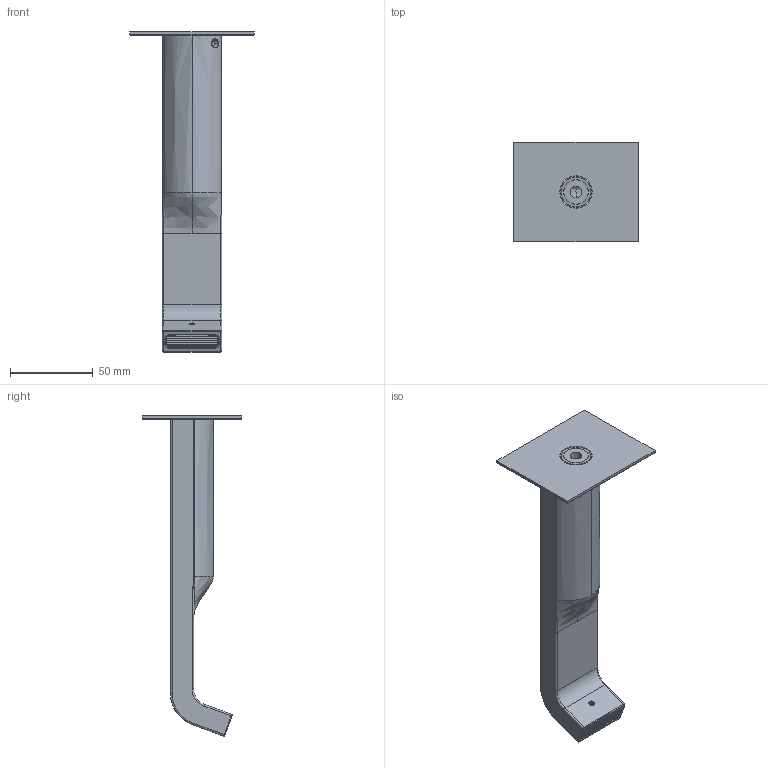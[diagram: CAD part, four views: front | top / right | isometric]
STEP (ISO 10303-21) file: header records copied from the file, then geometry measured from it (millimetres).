
FILE_DESCRIPTION((''),'2;1');
FILE_NAME('83897_SW0001','2026-01-30T14:35:10',('carloff'),(''),'CREO PARAMETRIC BY PTC INC, 2022014','CREO PARAMETRIC BY PTC INC, 2022014','');
FILE_SCHEMA(('CONFIG_CONTROL_DESIGN'));
Length unit declared in the file: millimetre
Products named in the file (1): 83897_SW0001
Bounding box: 75 x 60 x 193.44 mm (x, y, z)
Volume: 95217.5 mm3; surface area: 63042 mm2
Topology: 3 solids, 3 shells, 1040 faces, 2552 edges, 1650 vertices
Faces by surface type: plane 806, cylinder 128, bspline 38, cone 37, torus 21, sphere 10
Entity records: 37843 total; most frequent: CARTESIAN_POINT 13450, ORIENTED_EDGE 5104, DIRECTION 4677, EDGE_CURVE 2552, VECTOR 2081, LINE 2081, VERTEX_POINT 1650, AXIS2_PLACEMENT_3D 1298
